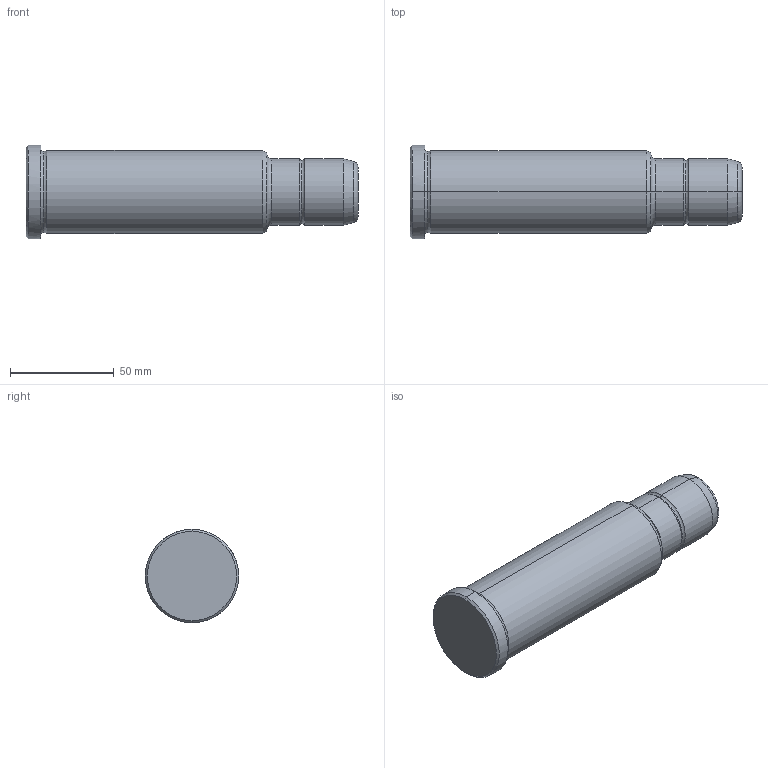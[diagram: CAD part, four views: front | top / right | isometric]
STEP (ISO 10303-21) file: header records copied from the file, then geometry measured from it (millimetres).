
FILE_DESCRIPTION(('CATIA V5 STEP Exchange'),'2;1');
FILE_NAME('C:\Users\Utente\Desktop\IO LAVORO\3D X SITO CF\X SITO\PLASTICA\351\351-32X116X160.stp','2021-09-15T11:42:09+00:00',('none'),('none'),'CATIA Version 5 Release 20 GA (IN-10)','CATIA V5 STEP AP203','none');
FILE_SCHEMA(('CONFIG_CONTROL_DESIGN'));
Length unit declared in the file: millimetre
Products named in the file (1): 351-32X116X160
Bounding box: 160 x 45 x 45 mm (x, y, z)
Volume: 182430 mm3; surface area: 21808 mm2
Topology: 1 solids, 1 shells, 30 faces, 86 edges, 60 vertices
Faces by surface type: torus 12, cylinder 8, cone 6, plane 4
Entity records: 1112 total; most frequent: CARTESIAN_POINT 289, ORIENTED_EDGE 172, DIRECTION 138, AXIS2_PLACEMENT_3D 95, EDGE_CURVE 86, CIRCLE 64, VERTEX_POINT 60, EDGE_LOOP 32
